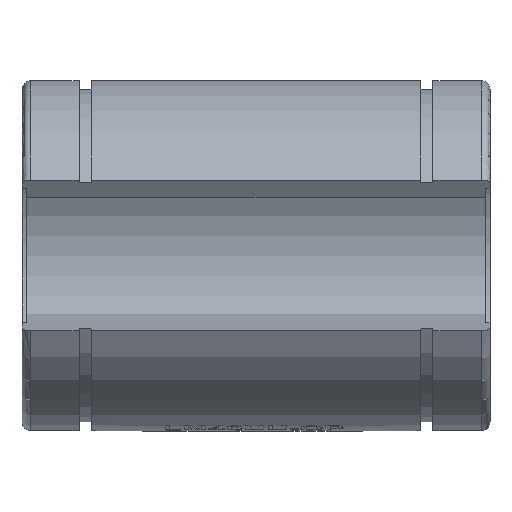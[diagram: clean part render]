
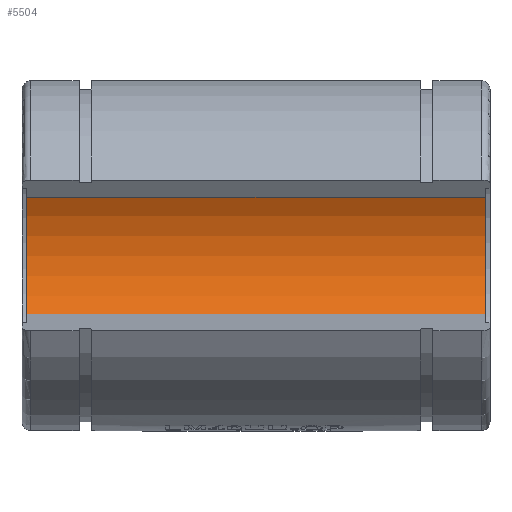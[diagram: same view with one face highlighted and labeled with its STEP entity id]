
A CAD part, top view. The second image highlights one B-rep face of the part: STEP entity #5504.
In plain terms, the highlighted cylindrical face has radius 20 mm (diameter 40 mm), a partial arc.
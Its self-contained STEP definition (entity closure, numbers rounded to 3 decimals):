
#121=CYLINDRICAL_SURFACE('',#5938,20.);
#291=LINE('',#8763,#759);
#292=LINE('',#8764,#760);
#759=VECTOR('',#6573,1000.);
#760=VECTOR('',#6574,1000.);
#1373=CIRCLE('',#5935,20.);
#1374=CIRCLE('',#5937,20.);
#1762=ORIENTED_EDGE('',*,*,#3412,.T.);
#1763=ORIENTED_EDGE('',*,*,#3409,.T.);
#1764=ORIENTED_EDGE('',*,*,#3413,.F.);
#1765=ORIENTED_EDGE('',*,*,#3407,.T.);
#3407=EDGE_CURVE('',#4226,#4225,#1373,.T.);
#3409=EDGE_CURVE('',#4227,#4228,#1374,.T.);
#3412=EDGE_CURVE('',#4225,#4227,#291,.T.);
#3413=EDGE_CURVE('',#4226,#4228,#292,.T.);
#4225=VERTEX_POINT('',#8752);
#4226=VERTEX_POINT('',#8754);
#4227=VERTEX_POINT('',#8758);
#4228=VERTEX_POINT('',#8759);
#4765=EDGE_LOOP('',(#1762,#1763,#1764,#1765));
#5153=FACE_BOUND('',#4765,.T.);
#5504=ADVANCED_FACE('',(#5153),#121,.F.);
#5935=AXIS2_PLACEMENT_3D('',#8753,#6562,#6563);
#5937=AXIS2_PLACEMENT_3D('',#8757,#6567,#6568);
#5938=AXIS2_PLACEMENT_3D('',#8762,#6571,#6572);
#6562=DIRECTION('',(1.,0.,0.));
#6563=DIRECTION('',(0.,0.,-1.));
#6567=DIRECTION('',(-1.,0.,0.));
#6568=DIRECTION('',(0.,0.,1.));
#6571=DIRECTION('',(1.,0.,0.));
#6572=DIRECTION('',(0.,-1.,0.));
#6573=DIRECTION('',(-1.,0.,0.));
#6574=DIRECTION('',(-1.,0.,0.));
#8752=CARTESIAN_POINT('',(39.2,10.,17.321));
#8753=CARTESIAN_POINT('',(39.2,0.,0.));
#8754=CARTESIAN_POINT('',(39.2,-10.,17.321));
#8757=CARTESIAN_POINT('',(-39.2,0.,0.));
#8758=CARTESIAN_POINT('',(-39.2,10.,17.321));
#8759=CARTESIAN_POINT('',(-39.2,-10.,17.321));
#8762=CARTESIAN_POINT('',(-80.,0.,0.));
#8763=CARTESIAN_POINT('',(80.,10.,17.321));
#8764=CARTESIAN_POINT('',(80.,-10.,17.321));
